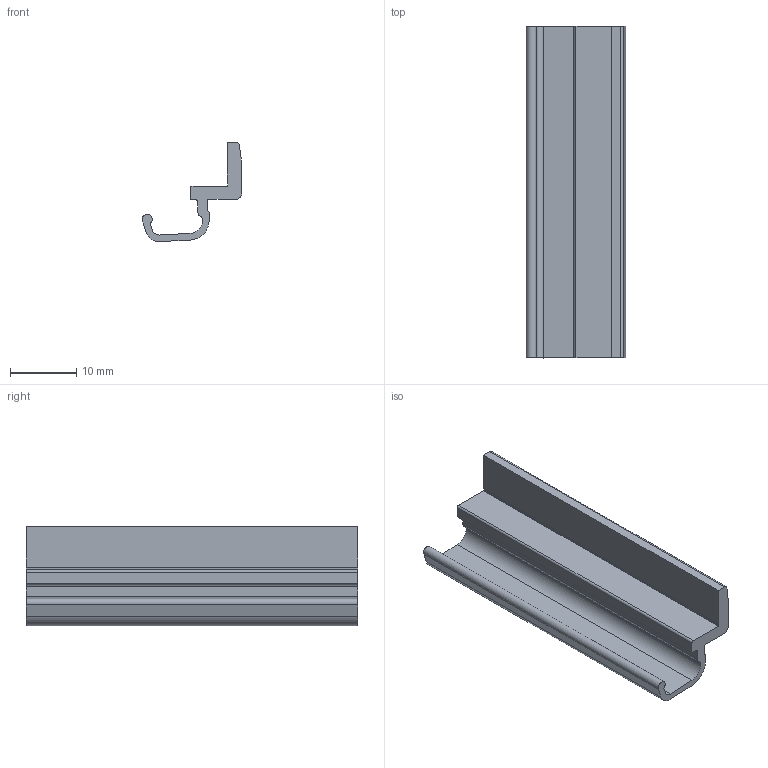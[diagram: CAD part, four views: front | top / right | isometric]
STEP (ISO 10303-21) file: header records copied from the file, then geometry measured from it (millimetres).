
FILE_DESCRIPTION(('STEP AP214'),'1');
FILE_NAME('RR2B.stp','2021-05-26T09:15:32',(' '),(' '),'Spatial InterOp 3D',' ',' ');
FILE_SCHEMA(('AUTOMOTIVE_DESIGN { 1 0 10303 214 1 1 1 1 }'));
Length unit declared in the file: millimetre
Products named in the file (1): RR2B
Bounding box: 15 x 50 x 14.96 mm (x, y, z)
Volume: 2357 mm3; surface area: 3282.7 mm2
Topology: 1 solids, 1 shells, 38 faces, 108 edges, 72 vertices
Faces by surface type: plane 21, cylinder 17
Entity records: 1566 total; most frequent: DIRECTION 220, CARTESIAN_POINT 219, ORIENTED_EDGE 216, EDGE_CURVE 108, LINE 74, VECTOR 74, AXIS2_PLACEMENT_3D 73, VERTEX_POINT 72
